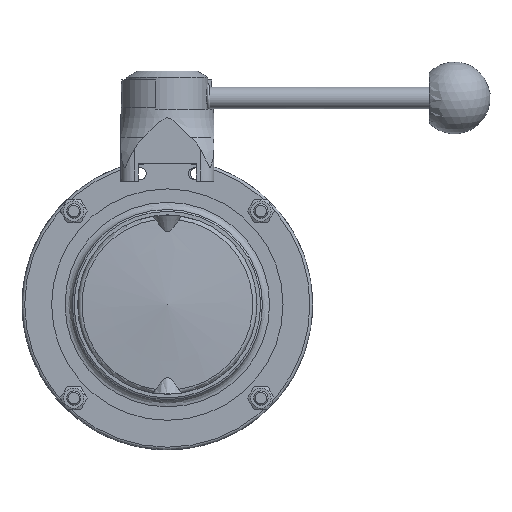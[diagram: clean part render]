
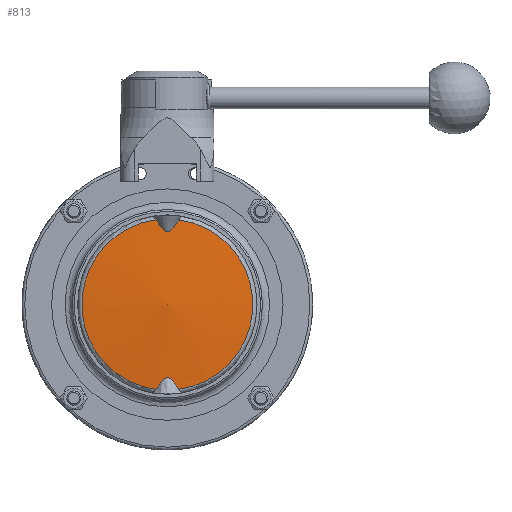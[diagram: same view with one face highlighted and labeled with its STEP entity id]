
A CAD part, front view. The second image highlights one B-rep face of the part: STEP entity #813.
In plain terms, the highlighted conical face has half-angle 85.996 degrees and reference radius 23.837 mm.
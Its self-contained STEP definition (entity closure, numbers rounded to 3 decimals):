
#657=CARTESIAN_POINT('',(6.415,-2.663,-47.241));
#658=VERTEX_POINT('',#657);
#674=CARTESIAN_POINT('',(-6.415,-2.663,-47.241));
#675=VERTEX_POINT('',#674);
#676=CARTESIAN_POINT('',(-6.415,-2.663,-47.241));
#677=CARTESIAN_POINT('',(-5.43,-2.776,-45.741));
#678=CARTESIAN_POINT('',(-4.505,-2.877,-44.397));
#679=CARTESIAN_POINT('',(-3.073,-3.008,-42.635));
#680=CARTESIAN_POINT('',(-2.6,-3.047,-42.103));
#681=CARTESIAN_POINT('',(-1.8,-3.099,-41.406));
#682=CARTESIAN_POINT('',(-1.525,-3.114,-41.195));
#683=CARTESIAN_POINT('',(-1.041,-3.134,-40.926));
#684=CARTESIAN_POINT('',(-0.868,-3.14,-40.845));
#685=CARTESIAN_POINT('',(-0.477,-3.15,-40.719));
#686=CARTESIAN_POINT('',(-0.259,-3.153,-40.673));
#687=CARTESIAN_POINT('',(0.259,-3.153,-40.673));
#688=CARTESIAN_POINT('',(0.477,-3.15,-40.719));
#689=CARTESIAN_POINT('',(0.868,-3.14,-40.845));
#690=CARTESIAN_POINT('',(1.041,-3.134,-40.926));
#691=CARTESIAN_POINT('',(1.525,-3.114,-41.195));
#692=CARTESIAN_POINT('',(1.8,-3.099,-41.406));
#693=CARTESIAN_POINT('',(2.6,-3.047,-42.103));
#694=CARTESIAN_POINT('',(3.073,-3.008,-42.635));
#695=CARTESIAN_POINT('',(4.505,-2.877,-44.397));
#696=CARTESIAN_POINT('',(5.43,-2.776,-45.741));
#697=CARTESIAN_POINT('',(6.415,-2.663,-47.241));
#698=B_SPLINE_CURVE_WITH_KNOTS('',3,(#676,#677,#678,#679,#680,#681,#682,#683,#684,#685,#686,#687,#688,#689,#690,#691,#692,#693,#694,#695,#696,#697),.UNSPECIFIED.,.F.,.U.,(4,2,2,2,2,2,2,2,2,2,4),(1.264,1.863,2.173,2.328,2.406,2.484,2.561,2.639,2.794,3.105,3.704),.UNSPECIFIED.);
#699=EDGE_CURVE('',#675,#658,#698,.T.);
#762=CARTESIAN_POINT('',(0.0,-4.331,0.0));
#763=DIRECTION('',(0.0,1.0,0.0));
#764=DIRECTION('',(1.0,0.0,0.0));
#765=AXIS2_PLACEMENT_3D('',#762,#763,#764);
#766=CONICAL_SURFACE('',#765,23.837,85.996);
#767=ORIENTED_EDGE('',*,*,#699,.T.);
#768=CARTESIAN_POINT('',(6.415,-2.663,47.241));
#769=VERTEX_POINT('',#768);
#770=CARTESIAN_POINT('',(0.0,-2.663,0.0));
#771=DIRECTION('',(0.0,-1.0,0.0));
#772=DIRECTION('',(1.0,0.0,0.0));
#773=AXIS2_PLACEMENT_3D('',#770,#771,#772);
#774=CIRCLE('',#773,47.675);
#775=EDGE_CURVE('',#658,#769,#774,.T.);
#776=ORIENTED_EDGE('',*,*,#775,.T.);
#777=CARTESIAN_POINT('',(-6.415,-2.663,47.241));
#778=VERTEX_POINT('',#777);
#779=CARTESIAN_POINT('',(6.415,-2.663,47.241));
#780=CARTESIAN_POINT('',(5.43,-2.776,45.741));
#781=CARTESIAN_POINT('',(4.505,-2.877,44.397));
#782=CARTESIAN_POINT('',(3.073,-3.008,42.635));
#783=CARTESIAN_POINT('',(2.6,-3.047,42.103));
#784=CARTESIAN_POINT('',(1.8,-3.099,41.406));
#785=CARTESIAN_POINT('',(1.525,-3.114,41.195));
#786=CARTESIAN_POINT('',(1.041,-3.134,40.926));
#787=CARTESIAN_POINT('',(0.868,-3.14,40.845));
#788=CARTESIAN_POINT('',(0.477,-3.15,40.719));
#789=CARTESIAN_POINT('',(0.259,-3.153,40.673));
#790=CARTESIAN_POINT('',(-0.259,-3.153,40.673));
#791=CARTESIAN_POINT('',(-0.477,-3.15,40.719));
#792=CARTESIAN_POINT('',(-0.868,-3.14,40.845));
#793=CARTESIAN_POINT('',(-1.041,-3.134,40.926));
#794=CARTESIAN_POINT('',(-1.525,-3.114,41.195));
#795=CARTESIAN_POINT('',(-1.8,-3.099,41.406));
#796=CARTESIAN_POINT('',(-2.6,-3.047,42.103));
#797=CARTESIAN_POINT('',(-3.073,-3.008,42.635));
#798=CARTESIAN_POINT('',(-4.505,-2.877,44.397));
#799=CARTESIAN_POINT('',(-5.43,-2.776,45.741));
#800=CARTESIAN_POINT('',(-6.415,-2.663,47.241));
#801=B_SPLINE_CURVE_WITH_KNOTS('',3,(#779,#780,#781,#782,#783,#784,#785,#786,#787,#788,#789,#790,#791,#792,#793,#794,#795,#796,#797,#798,#799,#800),.UNSPECIFIED.,.F.,.U.,(4,2,2,2,2,2,2,2,2,2,4),(1.264,1.863,2.173,2.328,2.406,2.484,2.561,2.639,2.794,3.105,3.704),.UNSPECIFIED.);
#802=EDGE_CURVE('',#769,#778,#801,.T.);
#803=ORIENTED_EDGE('',*,*,#802,.T.);
#804=CARTESIAN_POINT('',(0.0,-2.663,0.0));
#805=DIRECTION('',(0.0,-1.0,0.0));
#806=DIRECTION('',(1.0,0.0,0.0));
#807=AXIS2_PLACEMENT_3D('',#804,#805,#806);
#808=CIRCLE('',#807,47.675);
#809=EDGE_CURVE('',#778,#675,#808,.T.);
#810=ORIENTED_EDGE('',*,*,#809,.T.);
#811=EDGE_LOOP('',(#767,#776,#803,#810));
#812=FACE_OUTER_BOUND('',#811,.T.);
#813=ADVANCED_FACE('',(#812),#766,.T.);
